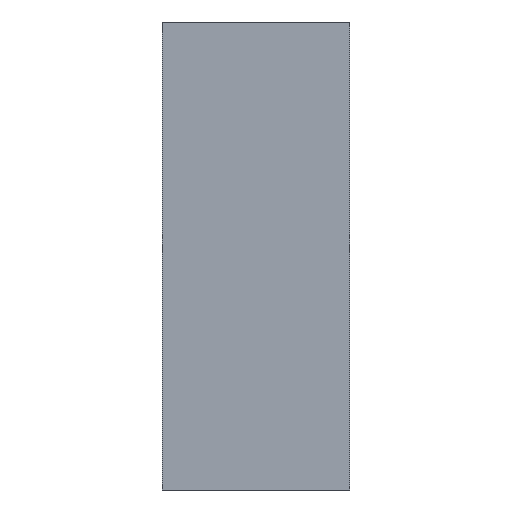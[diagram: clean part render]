
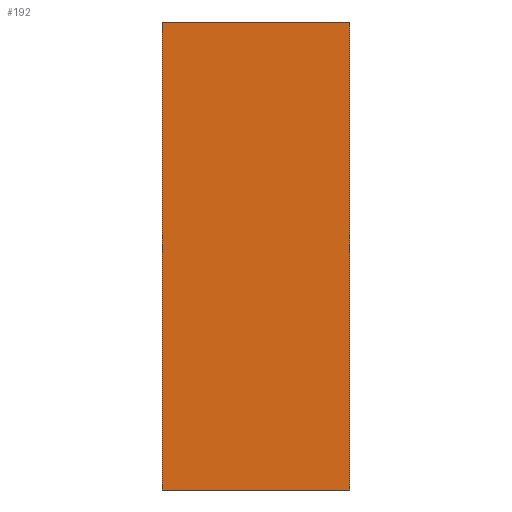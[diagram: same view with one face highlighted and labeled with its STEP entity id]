
A CAD part, left-side view. The second image highlights one B-rep face of the part: STEP entity #192.
In plain terms, the highlighted planar face has unit normal (-1, 0, 0).
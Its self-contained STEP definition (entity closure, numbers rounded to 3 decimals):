
#172=AXIS2_PLACEMENT_3D('Plane Axis2P3D',#169,#170,#171) ;
#80=CARTESIAN_POINT('Vertex',(-32.5,0.,-25.)) ;
#85=CARTESIAN_POINT('Line Origine',(-32.5,0.,-12.5)) ;
#89=CARTESIAN_POINT('Vertex',(-32.5,0.,0.)) ;
#143=CARTESIAN_POINT('Line Origine',(-32.5,-5.,0.)) ;
#147=CARTESIAN_POINT('Vertex',(-32.5,-10.,0.)) ;
#169=CARTESIAN_POINT('Axis2P3D Location',(-32.5,0.,0.)) ;
#174=CARTESIAN_POINT('Line Origine',(-32.5,-5.,-25.)) ;
#178=CARTESIAN_POINT('Vertex',(-32.5,-10.,-25.)) ;
#181=CARTESIAN_POINT('Line Origine',(-32.5,-10.,-12.5)) ;
#86=DIRECTION('Vector Direction',(0.,0.,-1.)) ;
#144=DIRECTION('Vector Direction',(0.,1.,0.)) ;
#170=DIRECTION('Axis2P3D Direction',(1.,0.,0.)) ;
#171=DIRECTION('Axis2P3D XDirection',(0.,1.,0.)) ;
#175=DIRECTION('Vector Direction',(0.,-1.,0.)) ;
#182=DIRECTION('Vector Direction',(0.,0.,1.)) ;
#87=VECTOR('Line Direction',#86,1.) ;
#145=VECTOR('Line Direction',#144,1.) ;
#176=VECTOR('Line Direction',#175,1.) ;
#183=VECTOR('Line Direction',#182,1.) ;
#187=ORIENTED_EDGE('',*,*,#91,.F.) ;
#188=ORIENTED_EDGE('',*,*,#180,.F.) ;
#189=ORIENTED_EDGE('',*,*,#185,.F.) ;
#190=ORIENTED_EDGE('',*,*,#149,.F.) ;
#192=ADVANCED_FACE('PartBody',(#191),#173,.F.) ;
#91=EDGE_CURVE('',#81,#90,#88,.F.) ;
#149=EDGE_CURVE('',#90,#148,#146,.F.) ;
#180=EDGE_CURVE('',#179,#81,#177,.F.) ;
#185=EDGE_CURVE('',#148,#179,#184,.F.) ;
#186=EDGE_LOOP('',(#187,#188,#189,#190)) ;
#191=FACE_OUTER_BOUND('',#186,.T.) ;
#88=LINE('Line',#85,#87) ;
#146=LINE('Line',#143,#145) ;
#177=LINE('Line',#174,#176) ;
#184=LINE('Line',#181,#183) ;
#173=PLANE('',#172) ;
#81=VERTEX_POINT('',#80) ;
#90=VERTEX_POINT('',#89) ;
#148=VERTEX_POINT('',#147) ;
#179=VERTEX_POINT('',#178) ;
